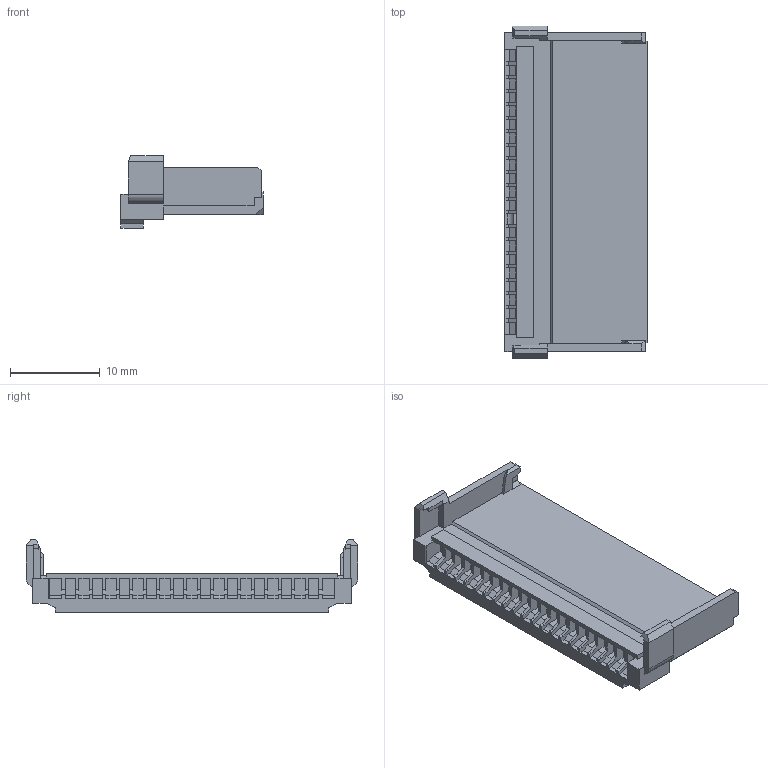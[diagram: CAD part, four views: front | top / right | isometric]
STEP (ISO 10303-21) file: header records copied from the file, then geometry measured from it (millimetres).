
FILE_DESCRIPTION(('CATIA V5 STEP','CAx-IF Rec.Pracs.--- Model Styling and Organization---1.5--- 2016-08-15','CAx-IF Rec.Pracs.---Supplemental Geometry---1.0---2011-11-01','CAx-IF Rec.Pracs.--- Composite Materials ---1.1---2010-07-15'),'2;1');
FILE_NAME('C:\Users\0120140016\Desktop\カタログ3D\42WAY\6099-0058(HE020-42F-L-LGR).stp','2024-09-25T03:27:26+00:00',('none'),('none'),'CATIA Version 5-6 Release 2022 SP2 HF23','CATIA V5 STEP AP214 v2','none');
FILE_SCHEMA(('AUTOMOTIVE_DESIGN { 1 0 10303 214 1 1 1 1 }'));
Length unit declared in the file: millimetre
Products named in the file (1): UJX279_42F_LOWER_HSG
Bounding box: 15.8 x 36.9 x 8.07 mm (x, y, z)
Volume: 1475.2 mm3; surface area: 1958.6 mm2
Topology: 1 solids, 3 shells, 407 faces, 1128 edges, 748 vertices
Faces by surface type: plane 398, cylinder 9
Entity records: 11743 total; most frequent: ORIENTED_EDGE 2256, CARTESIAN_POINT 2222, DIRECTION 1483, EDGE_CURVE 1128, VECTOR 1103, LINE 1103, VERTEX_POINT 748, EDGE_LOOP 428
